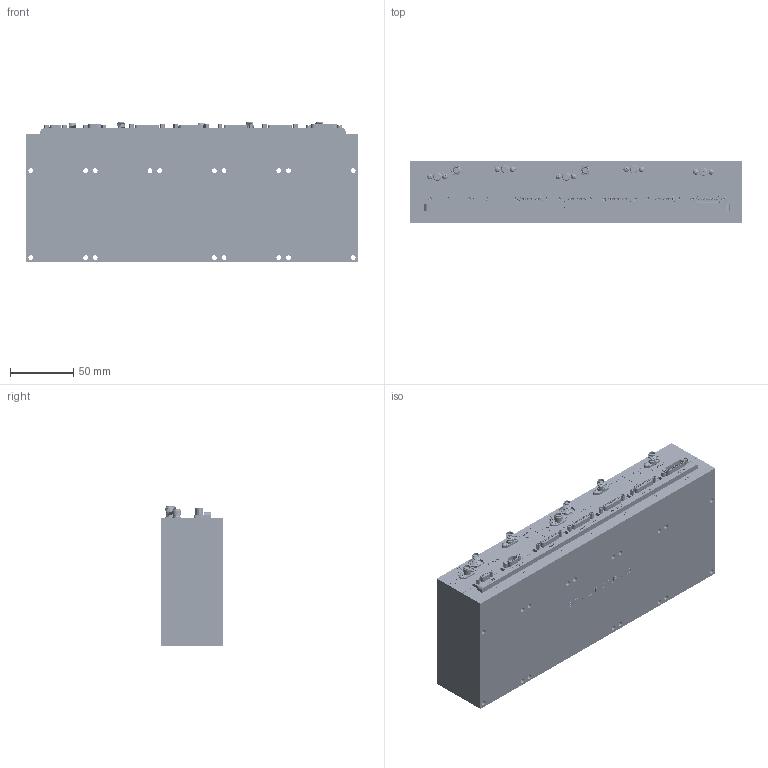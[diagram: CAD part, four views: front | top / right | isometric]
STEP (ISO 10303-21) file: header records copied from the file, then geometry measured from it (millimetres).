
FILE_DESCRIPTION (( 'STEP AP203' ), '1' );
FILE_NAME ('QS-RX-3RCDHT.STEP', '2023-08-08T20:48:20', ( '' ), ( '' ), 'SwSTEP 2.0', 'SolidWorks 2021', '' );
FILE_SCHEMA (( 'CONFIG_CONTROL_DESIGN' ));
Products named in the file (1): QS-RX-3RCDHT
Bounding box: 261.81 x 48.69 x 111.15 mm (x, y, z)
Volume: 1285720.4 mm3; surface area: 121082.8 mm2
Topology: 35 solids, 35 shells, 7504 faces, 18447 edges, 11630 vertices
Faces by surface type: plane 2719, cylinder 1971, bspline 1248, torus 1060, cone 486, sphere 20
Entity records: 316424 total; most frequent: CARTESIAN_POINT 146507, ORIENTED_EDGE 36734, DIRECTION 32978, EDGE_CURVE 18367, AXIS2_PLACEMENT_3D 11954, VERTEX_POINT 11630, VECTOR 9070, LINE 9070
